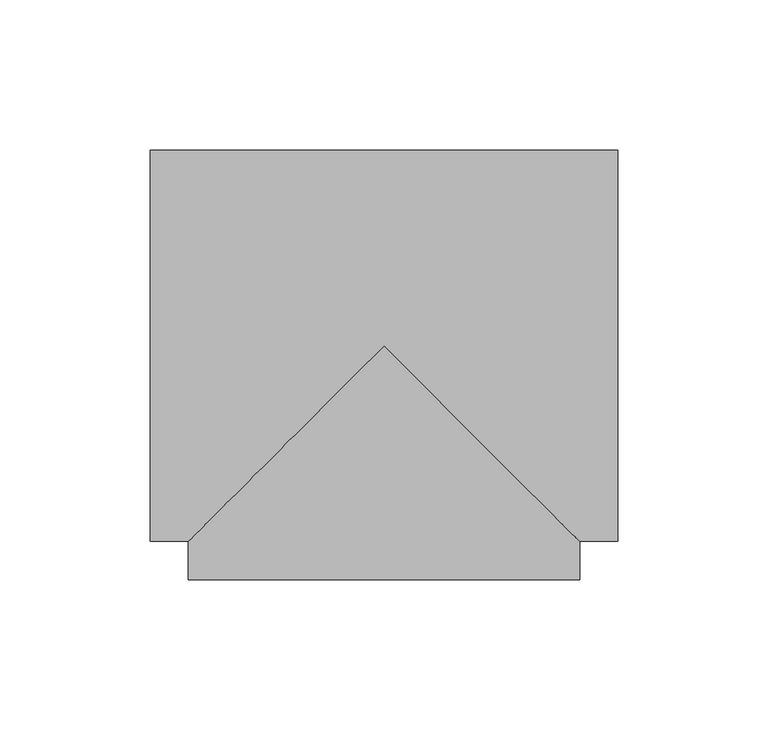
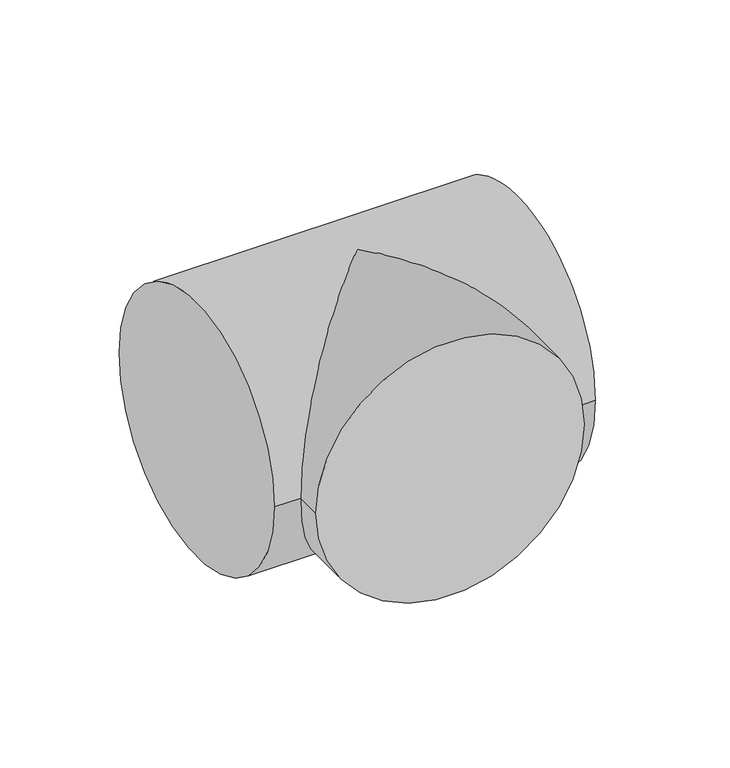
"""IFC4 building model written with IfcOpenShell, lengths in millimetres: pipe fitting geometry, M_Te - Genérica : Estándar."""

from ifc_helpers import new_model, si_unit, frame, origin, place, context, project, spatial, circle_curve, ellipse_curve, source, transform, mapped, element, save
from ifc_brep_helpers import plane_surface, cylinder_surface, advanced_brep


def pipe_fitting_19aea86e(model_context):
    return source(origin(), model_context, "Body", "AdvancedBrep", [
        advanced_brep(
        [(-77.7875, -65.0875, 0.0), (-77.7875, 65.0875, 0.0), (77.7875, -65.0875, 0.0), (77.7875, 65.0875, 0.0), (-65.0888575, -65.0875, 0.0), (0.0, 0.0, 65.0875), (65.0861425, -65.0875, 0.0), (0.0, 0.0, -65.0875), (-65.0891223, -77.7861425, 0.0), (65.0858776, -77.7888575, 0.0)],
        [
            (0, 1, circle_curve(frame((-77.7875, 0.0, 0.0), z_axis=(-1.0, 0.0, 0.0), x_axis=(0.0, 1.0, 0.0)), 65.0875)),
            (1, 0, circle_curve(frame((-77.7875, 0.0, 0.0), z_axis=(-1.0, 0.0, 0.0), x_axis=(0.0, 1.0, 0.0)), 65.0875)),
            (2, 3, circle_curve(frame((77.7875, 0.0, 0.0), z_axis=(1.0, 0.0, 0.0), x_axis=(0.0, 1.0, 0.0)), 65.0875)),
            (3, 2, circle_curve(frame((77.7875, 0.0, 0.0), z_axis=(1.0, 0.0, 0.0), x_axis=(0.0, 1.0, 0.0)), 65.0875)),
            (0, 4),
            (4, 5, ellipse_curve(frame((0.0, 0.0, 0.0), z_axis=(-0.7070994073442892, 0.7071141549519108, 0.0), x_axis=(-0.7071141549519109, -0.707099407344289, 0.0)), 92.0485851, 65.0875)),
            (5, 6, ellipse_curve(frame((0.0, 0.0, 0.0), z_axis=(0.7071141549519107, 0.7070994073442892, 0.0), x_axis=(-0.7070994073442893, 0.7071141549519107, 0.0)), 92.0466654, 65.0875)),
            (6, 2),
            (3, 1),
            (6, 7, ellipse_curve(frame((0.0, 0.0, 0.0), z_axis=(0.7071141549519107, 0.7070994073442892, 0.0), x_axis=(-0.7070994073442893, 0.7071141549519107, 0.0)), 92.0466654, 65.0875)),
            (7, 4, ellipse_curve(frame((0.0, 0.0, 0.0), z_axis=(-0.7070994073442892, 0.7071141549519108, 0.0), x_axis=(-0.7071141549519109, -0.707099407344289, 0.0)), 92.0485851, 65.0875)),
            (8, 9, circle_curve(frame((-0.0016224, -77.7875, 0.0), z_axis=(-2.0856266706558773e-05, -0.9999999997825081, 0.0), x_axis=(0.9999999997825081, -2.0856266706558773e-05, 0.0)), 65.0875)),
            (9, 8, circle_curve(frame((-0.0016224, -77.7875, 0.0), z_axis=(-2.0856266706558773e-05, -0.9999999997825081, 0.0), x_axis=(0.9999999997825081, -2.0856266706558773e-05, 0.0)), 65.0875)),
            (9, 6),
            (4, 8),
        ],
        [
            plane_surface(frame((-77.7875, 0.0, 0.0), z_axis=(-1.0, 0.0, 0.0), x_axis=(0.0, 0.0, 1.0))),
            plane_surface(frame((77.7875, 0.0, 0.0), z_axis=(1.0, 0.0, 0.0), x_axis=(0.0, 0.0, 1.0))),
            cylinder_surface(frame((-77.7875, 0.0, 0.0), z_axis=(-1.0, 0.0, 0.0), x_axis=(0.0, 1.0, 0.0)), 65.0875),
            plane_surface(frame((-0.0016224, -77.7875, 0.0), z_axis=(-2.085626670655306e-05, -0.9999999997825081, 0.0), x_axis=(0.0, 0.0, 1.0))),
            cylinder_surface(frame((0.0, 0.0, 0.0), z_axis=(2.0856266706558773e-05, 0.9999999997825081, 0.0), x_axis=(0.9999999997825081, -2.0856266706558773e-05, 0.0)), 65.0875),
        ],
        [
            (0, [[1, 2]]),
            (1, [[3, 4]]),
            (2, [[-1, 5, 6, 7, 8, -4, 9]]),
            (2, [[-2, -9, -3, -8, 10, 11, -5]]),
            (3, [[12, 13]]),
            (4, [[-13, 14, -7, -6, 15]]),
            (4, [[-12, -15, -11, -10, -14]]),
        ],
    ),
    ])


if __name__ == "__main__":
    model = new_model("IFC4")
    model_context = context("Model", 3, world=origin())
    ifc_project = project(units=[si_unit("LENGTHUNIT", "METRE", prefix="MILLI")], contexts=[model_context])
    site = spatial("IfcSite", under=ifc_project)
    building = spatial("IfcBuilding", under=site)
    placement = place(None, origin())
    pipe_fitting_shape = pipe_fitting_19aea86e(model_context)
    element("IfcPipeFitting", 1, ObjectType="M_Te - Genérica : Estándar", at=placement, inside=building, context=model_context, shape_type="MappedRepresentation", body=[
        mapped(pipe_fitting_shape, transform((0.0, 0.0, 0.0), x_axis=(1.0, 0.0, 0.0), y_axis=(0.0, 1.0, 0.0), z_axis=(0.0, 0.0, 1.0))),
    ])
    save(model, "model.ifc")
